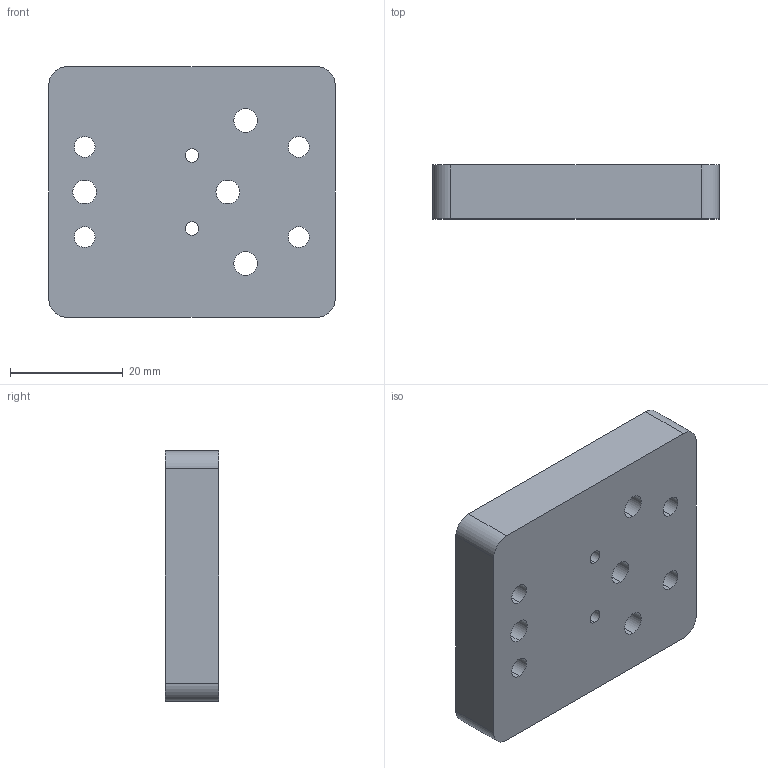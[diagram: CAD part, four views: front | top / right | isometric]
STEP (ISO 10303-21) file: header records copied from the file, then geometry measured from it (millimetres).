
FILE_DESCRIPTION (( 'STEP AP203' ), '1' );
FILE_NAME ('SLM-593XS-M-MICROHAWK.STEP', '2018-08-24T13:40:59', ( 'admin' ), ( '' ), 'SwSTEP 2.0', 'SolidWorks 2018', '' );
FILE_SCHEMA (( 'CONFIG_CONTROL_DESIGN' ));
Length unit declared in the file: inch
Products named in the file (1): SLM-593XS-M-MICROHAWK
Bounding box: 50.8 x 9.53 x 44.45 mm (x, y, z)
Volume: 20060.6 mm3; surface area: 7282.2 mm2
Topology: 1 solids, 1 shells, 64 faces, 165 edges, 110 vertices
Faces by surface type: cylinder 36, plane 27, bspline 1
Entity records: 2134 total; most frequent: CARTESIAN_POINT 381, DIRECTION 363, ORIENTED_EDGE 330, EDGE_CURVE 165, AXIS2_PLACEMENT_3D 136, VERTEX_POINT 110, LINE 91, EDGE_LOOP 91
